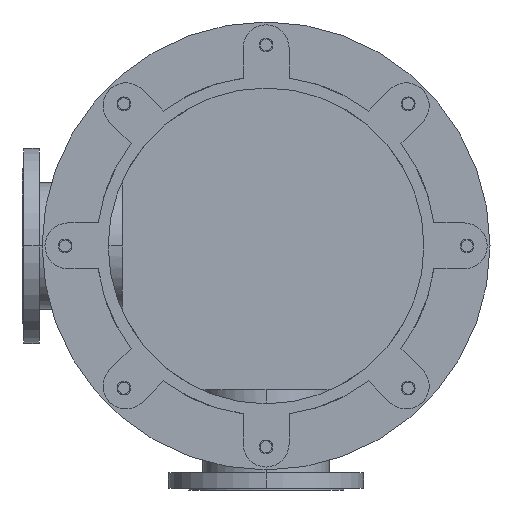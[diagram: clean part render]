
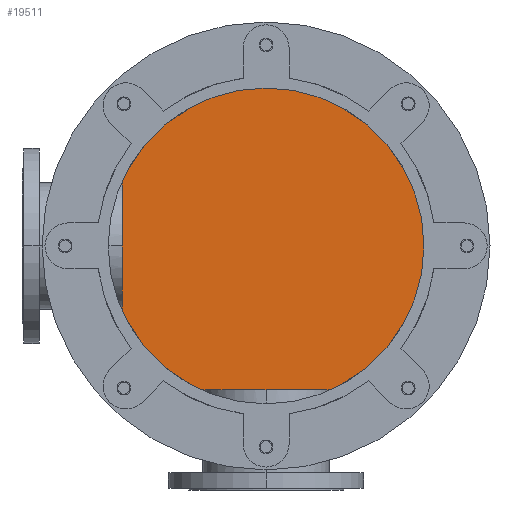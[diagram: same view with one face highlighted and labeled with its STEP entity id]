
A CAD part, front view. The second image highlights one B-rep face of the part: STEP entity #19511.
In plain terms, the highlighted planar face has unit normal (0, -1, 0).
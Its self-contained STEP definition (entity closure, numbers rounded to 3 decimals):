
#3715=CARTESIAN_POINT('',(0.,875.,0.));
#3716=DIRECTION('',(0.,-1.,0.));
#3717=DIRECTION('',(0.,0.,-1.));
#3718=AXIS2_PLACEMENT_3D('',#3715,#3716,#3717);
#4105=CARTESIAN_POINT('',(0.,875.,0.));
#4106=DIRECTION('',(0.,-1.,0.));
#4107=DIRECTION('',(0.,0.,1.));
#4108=AXIS2_PLACEMENT_3D('',#4105,#4106,#4107);
#9074=CARTESIAN_POINT('',(0.,875.,290.));
#9075=CARTESIAN_POINT('',(0.,875.,-290.));
#9076=VERTEX_POINT('',#9074);
#9077=VERTEX_POINT('',#9075);
#19502=CARTESIAN_POINT('',(0.,875.,0.));
#19503=DIRECTION('',(0.,1.,0.));
#19504=DIRECTION('',(0.,0.,-1.));
#19505=AXIS2_PLACEMENT_3D('',#19502,#19503,#19504);
#19506=PLANE('',#19505);
#19507=ORIENTED_EDGE('',*,*,#15732,.F.);
#19508=ORIENTED_EDGE('',*,*,#15422,.F.);
#19509=EDGE_LOOP('',(#19507,#19508));
#19510=FACE_OUTER_BOUND('',#19509,.F.);
#19511=ADVANCED_FACE('',(#19510),#19506,.F.);
#3719=CIRCLE('',#3718,290.);
#4109=CIRCLE('',#4108,290.);
#15422=EDGE_CURVE('',#9077,#9076,#3719,.T.);
#15732=EDGE_CURVE('',#9076,#9077,#4109,.T.);
